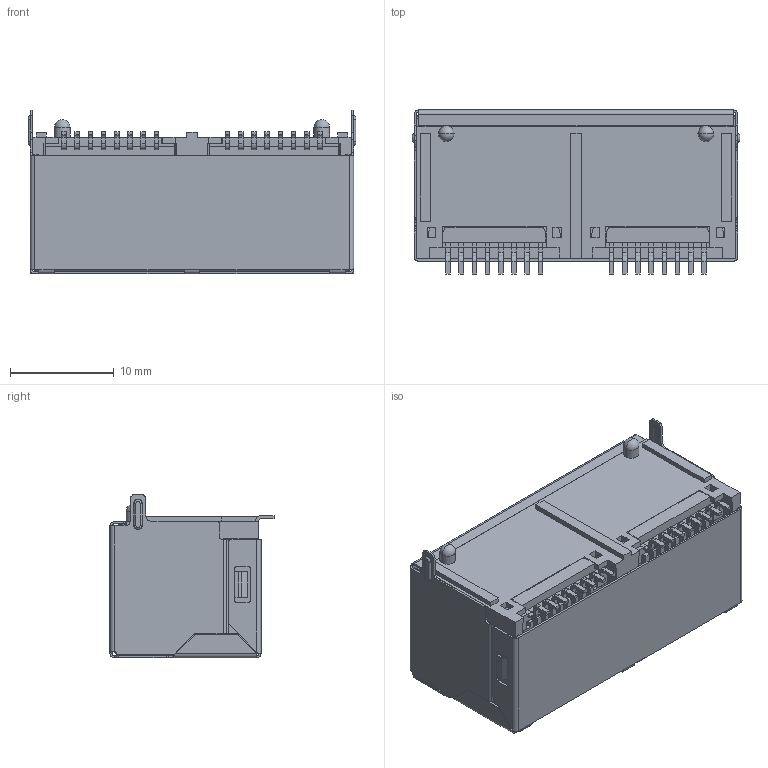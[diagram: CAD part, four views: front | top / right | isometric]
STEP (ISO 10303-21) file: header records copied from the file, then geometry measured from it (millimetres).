
FILE_DESCRIPTION((''),'2;1');
FILE_NAME('ASS_1_ASM_4_ASM_ASM_ASM','2020-06-09T19:25:58',('Administrator'),(''),'CREO PARAMETRIC BY PTC INC, 2018400','CREO PARAMETRIC BY PTC INC, 2018400','');
FILE_SCHEMA(('CONFIG_CONTROL_DESIGN'));
Length unit declared in the file: millimetre
Products named in the file (23): RJ_CONTACT_PIN5___1_AF2; RJ_CONTACT_PIN1___1_AF2; RJ_CONTACT_PIN8___1_AF2; RJ_CONTACT_PIN4___1_AF2; RJ_CONTACT_PIN7___1_AF2; RJ_CONTACT_PIN3___1_AF2; RJ_CONTACT_PIN6___1_AF2; RJ_CONTACT_PIN2___1_AF2; RJ_CONTACT___ASM_1_ASM_ASM_AF2_ASM; RJ_CONTACT_PIN5___1_AF3; RJ_CONTACT_PIN1___1_AF3; RJ_CONTACT_PIN8___1_AF3; RJ_CONTACT_PIN4___1_AF3; RJ_CONTACT_PIN7___1_AF3; RJ_CONTACT_PIN3___1_AF3; RJ_CONTACT_PIN6___1_AF3; RJ_CONTACT_PIN2___1_AF3; RJ_CONTACT___ASM_1_ASM_ASM_AF3_ASM; HOUSING-NEW_4; SHELL_2; 1_4; 2_1; ASS_1_ASM_4_ASM_ASM_ASM
Assembly tree (24 placements, depth 3):
  ASS_1_ASM_4_ASM_ASM_ASM
    RJ_CONTACT___ASM_1_ASM_ASM_AF2_ASM
      RJ_CONTACT_PIN5___1_AF2
      RJ_CONTACT_PIN1___1_AF2
      RJ_CONTACT_PIN8___1_AF2
      RJ_CONTACT_PIN4___1_AF2
      RJ_CONTACT_PIN7___1_AF2
      RJ_CONTACT_PIN3___1_AF2
      RJ_CONTACT_PIN6___1_AF2
      RJ_CONTACT_PIN2___1_AF2
    RJ_CONTACT___ASM_1_ASM_ASM_AF3_ASM
      RJ_CONTACT_PIN5___1_AF3
      RJ_CONTACT_PIN1___1_AF3
      RJ_CONTACT_PIN8___1_AF3
      RJ_CONTACT_PIN4___1_AF3
      RJ_CONTACT_PIN7___1_AF3
      RJ_CONTACT_PIN3___1_AF3
      RJ_CONTACT_PIN6___1_AF3
      RJ_CONTACT_PIN2___1_AF3
    HOUSING-NEW_4
    SHELL_2
    1_4  x2
    2_1  x2
Bounding box: 31.55 x 15.8 x 15.75 mm (x, y, z)
Volume: 2620.5 mm3; surface area: 8189 mm2
Topology: 22 solids, 22 shells, 1304 faces, 3813 edges, 2542 vertices
Faces by surface type: plane 962, cylinder 326, sphere 4, torus 4, bspline 4, cone 4
Entity records: 42278 total; most frequent: CARTESIAN_POINT 7832, ORIENTED_EDGE 7328, DIRECTION 6954, EDGE_CURVE 3664, VECTOR 2878, LINE 2878, VERTEX_POINT 2444, AXIS2_PLACEMENT_3D 2038
